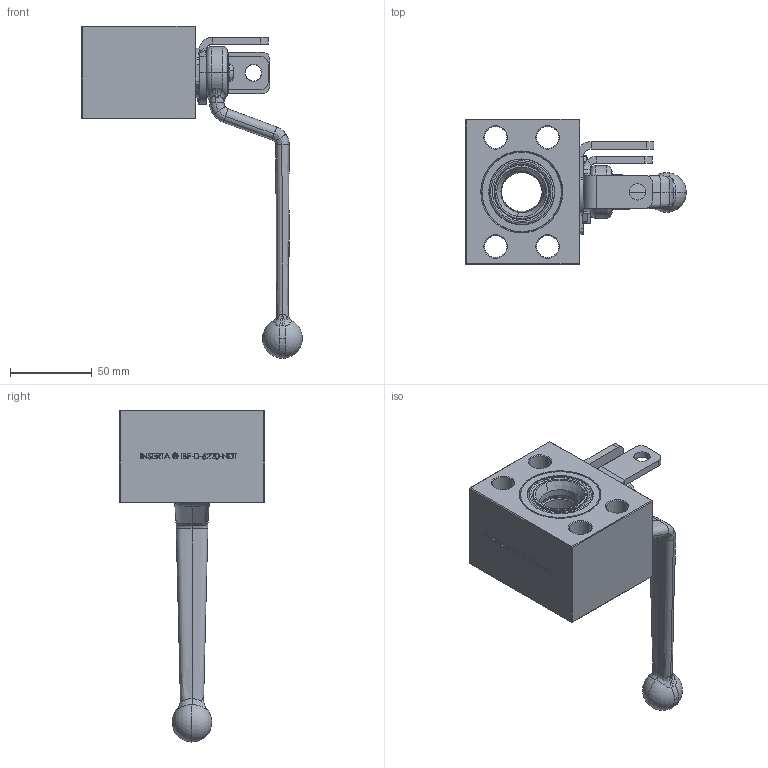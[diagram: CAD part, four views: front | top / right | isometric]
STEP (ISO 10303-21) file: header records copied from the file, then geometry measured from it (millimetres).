
FILE_DESCRIPTION (( 'STEP AP214' ), '1' );
FILE_NAME ('IBF-B-6220-N-D-T-Open.STEP', '2026-02-19T15:31:33', ( '' ), ( '' ), 'SwSTEP 2.0', 'SolidWorks 2025', '' );
FILE_SCHEMA (( 'AUTOMOTIVE_DESIGN' ));
Length unit declared in the file: inch
Products named in the file (1): IBF-B-6220-N-D-T-Open
Bounding box: 134.87 x 88.9 x 202.74 mm (x, y, z)
Volume: 345556.7 mm3; surface area: 67517.1 mm2
Topology: 2 solids, 4 shells, 898 faces, 2480 edges, 1618 vertices
Faces by surface type: plane 469, bspline 198, cylinder 126, cone 59, torus 32, sphere 14
Entity records: 52588 total; most frequent: CARTESIAN_POINT 31487, ORIENTED_EDGE 4956, DIRECTION 3477, EDGE_CURVE 2478, VERTEX_POINT 1618, VECTOR 1255, LINE 1255, AXIS2_PLACEMENT_3D 1111
